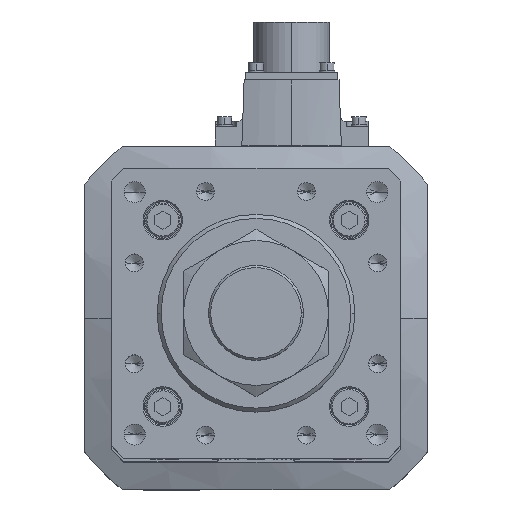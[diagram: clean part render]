
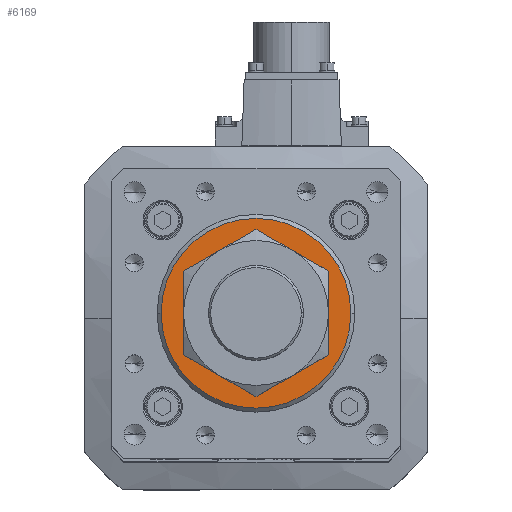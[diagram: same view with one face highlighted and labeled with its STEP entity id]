
A CAD part, top view. The second image highlights one B-rep face of the part: STEP entity #6169.
In plain terms, the highlighted planar face has unit normal (0, 0, 1).
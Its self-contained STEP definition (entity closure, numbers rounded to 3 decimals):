
#50 = CARTESIAN_POINT ( 'NONE',  ( 0., 0., 796. ) ) ;
#1998 = EDGE_CURVE ( 'NONE', #21872, #36187, #23659, .T. ) ;
#2852 = DIRECTION ( 'NONE',  ( 1., 0., 0. ) ) ;
#4173 = AXIS2_PLACEMENT_3D ( 'NONE', #32901, #15815, #18462 ) ;
#4302 = FACE_OUTER_BOUND ( 'NONE', #34052, .T. ) ;
#4668 = CARTESIAN_POINT ( 'NONE',  ( -23., 0., 796. ) ) ;
#4856 = CIRCLE ( 'NONE', #24194, 23. ) ;
#5468 = CARTESIAN_POINT ( 'NONE',  ( 0., 0., 796. ) ) ;
#6169 = ADVANCED_FACE ( 'NONE', ( #23435, #4302 ), #13039, .T. ) ;
#7287 = DIRECTION ( 'NONE',  ( 1., 0., 0. ) ) ;
#9447 = AXIS2_PLACEMENT_3D ( 'NONE', #5468, #28249, #28774 ) ;
#10027 = ORIENTED_EDGE ( 'NONE', *, *, #33672, .T. ) ;
#10587 = ORIENTED_EDGE ( 'NONE', *, *, #12761, .T. ) ;
#10752 = CIRCLE ( 'NONE', #24633, 23. ) ;
#11560 = CARTESIAN_POINT ( 'NONE',  ( 0., 0., 796. ) ) ;
#12761 = EDGE_CURVE ( 'NONE', #16431, #33082, #4856, .T. ) ;
#12818 = ORIENTED_EDGE ( 'NONE', *, *, #19318, .T. ) ;
#13039 = PLANE ( 'NONE',  #4173 ) ;
#14163 = CARTESIAN_POINT ( 'NONE',  ( -36., 0., 796. ) ) ;
#14618 = ORIENTED_EDGE ( 'NONE', *, *, #1998, .T. ) ;
#14687 = DIRECTION ( 'NONE',  ( 0., 0., -1. ) ) ;
#15815 = DIRECTION ( 'NONE',  ( 0., 0., 1. ) ) ;
#16431 = VERTEX_POINT ( 'NONE', #4668 ) ;
#17403 = DIRECTION ( 'NONE',  ( 0., 0., 1. ) ) ;
#18462 = DIRECTION ( 'NONE',  ( 1., 0., 0. ) ) ;
#19318 = EDGE_CURVE ( 'NONE', #33082, #16431, #10752, .T. ) ;
#19452 = CARTESIAN_POINT ( 'NONE',  ( 36., 0., 796. ) ) ;
#20730 = CIRCLE ( 'NONE', #27860, 36. ) ;
#21872 = VERTEX_POINT ( 'NONE', #14163 ) ;
#23251 = DIRECTION ( 'NONE',  ( 1., 0., 0. ) ) ;
#23435 = FACE_BOUND ( 'NONE', #37072, .T. ) ;
#23659 = CIRCLE ( 'NONE', #9447, 36. ) ;
#24194 = AXIS2_PLACEMENT_3D ( 'NONE', #50, #14687, #2852 ) ;
#24633 = AXIS2_PLACEMENT_3D ( 'NONE', #30076, #24702, #7287 ) ;
#24702 = DIRECTION ( 'NONE',  ( 0., 0., -1. ) ) ;
#27860 = AXIS2_PLACEMENT_3D ( 'NONE', #11560, #17403, #23251 ) ;
#28249 = DIRECTION ( 'NONE',  ( 0., 0., 1. ) ) ;
#28774 = DIRECTION ( 'NONE',  ( 1., 0., 0. ) ) ;
#30076 = CARTESIAN_POINT ( 'NONE',  ( 0., 0., 796. ) ) ;
#32901 = CARTESIAN_POINT ( 'NONE',  ( 0., 0., 796. ) ) ;
#33082 = VERTEX_POINT ( 'NONE', #36542 ) ;
#33672 = EDGE_CURVE ( 'NONE', #36187, #21872, #20730, .T. ) ;
#34052 = EDGE_LOOP ( 'NONE', ( #14618, #10027 ) ) ;
#36187 = VERTEX_POINT ( 'NONE', #19452 ) ;
#36542 = CARTESIAN_POINT ( 'NONE',  ( 23., 0., 796. ) ) ;
#37072 = EDGE_LOOP ( 'NONE', ( #12818, #10587 ) ) ;
